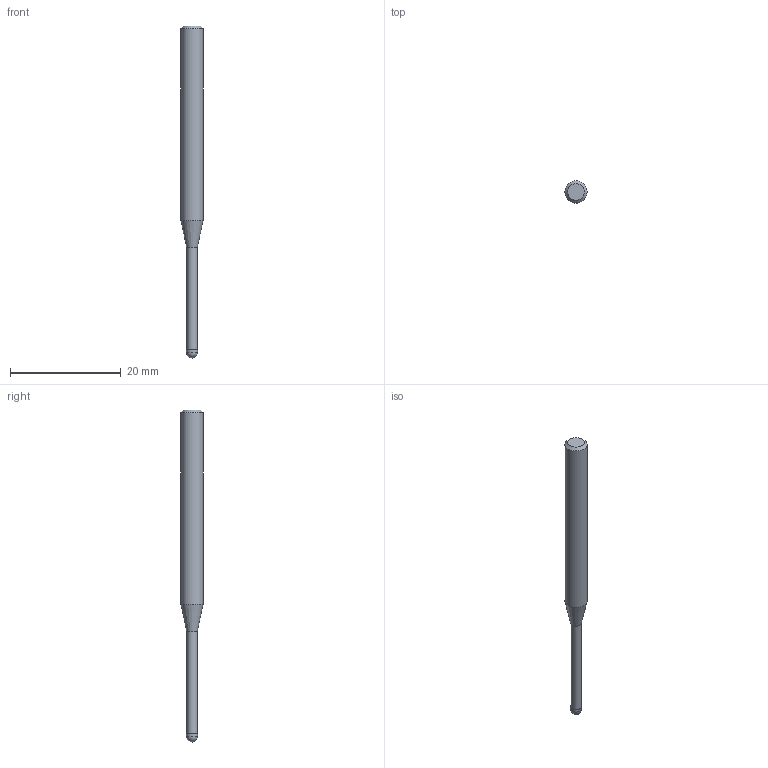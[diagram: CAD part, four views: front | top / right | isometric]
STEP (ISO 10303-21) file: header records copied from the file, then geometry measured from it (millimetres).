
FILE_DESCRIPTION((''),'2;1');
FILE_NAME('C:\Users\nsx150\AppData\Local\Temp\Mastercam 2021\EUJSUNXURU\TEMP.step','2021-04-22T10:26:25',(''),(''),'STEP Write','Mastercam 2021 ... CNC Software, Inc.','');
FILE_SCHEMA(('AUTOMOTIVE_DESIGN'));
Length unit declared in the file: millimetre
Products named in the file (1): None
Bounding box: 4 x 4 x 60 mm (x, y, z)
Volume: 533.6 mm3; surface area: 624.8 mm2
Topology: 2 solids, 2 shells, 9 faces, 14 edges, 8 vertices
Faces by surface type: plane 3, cylinder 3, cone 2, sphere 1
Full cylindrical faces by diameter (mm): 1.94 x1, 2 x1, 4 x1
Entity records: 211 total; most frequent: DIRECTION 36, CARTESIAN_POINT 25, AXIS2_PLACEMENT_3D 18, ORIENTED_EDGE 14, EDGE_LOOP 14, STYLED_ITEM 12, ADVANCED_FACE 9, FACE_BOUND 8
